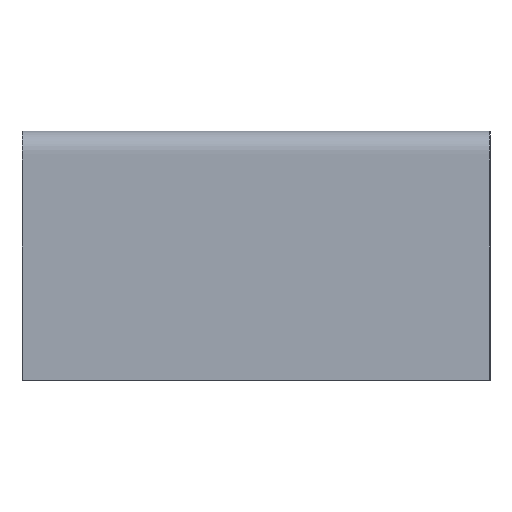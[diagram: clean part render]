
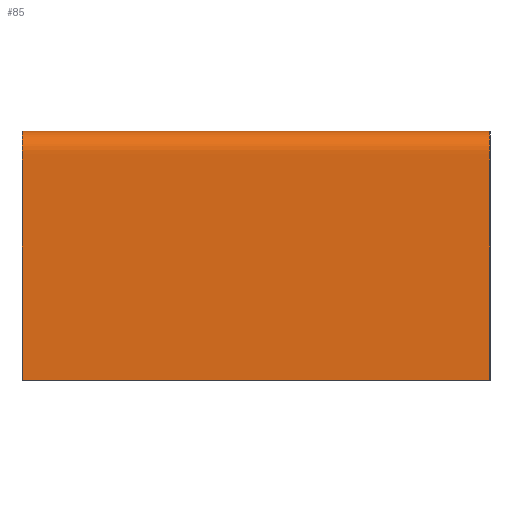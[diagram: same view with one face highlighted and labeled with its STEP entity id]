
A CAD part, left-side view. The second image highlights one B-rep face of the part: STEP entity #85.
In plain terms, the highlighted free-form (B-spline) face has degree [1, 2] with [2, 7] control points.
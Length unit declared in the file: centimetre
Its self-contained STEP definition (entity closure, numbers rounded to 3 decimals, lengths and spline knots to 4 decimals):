
#85=ADVANCED_FACE($,(#226),#1452,.T.);
#226=FACE_OUTER_BOUND($,#371,.T.);
#371=EDGE_LOOP($,(#588,#589,#590,#591));
#588=ORIENTED_EDGE($,*,*,#1040,.T.);
#589=ORIENTED_EDGE($,*,*,#1038,.T.);
#590=ORIENTED_EDGE($,*,*,#1044,.F.);
#591=ORIENTED_EDGE($,*,*,#1048,.F.);
#1038=EDGE_CURVE($,#1272,#1273,#1555,.T.);
#1040=EDGE_CURVE($,#1274,#1272,#1686,.T.);
#1044=EDGE_CURVE($,#1278,#1273,#1688,.T.);
#1048=EDGE_CURVE($,#1274,#1278,#1560,.T.);
#1272=VERTEX_POINT($,#2522);
#1273=VERTEX_POINT($,#2523);
#1274=VERTEX_POINT($,#2524);
#1278=VERTEX_POINT($,#2528);
#1452=(
BOUNDED_SURFACE()
B_SPLINE_SURFACE(1,2,((#2473,#2474,#2475,#2476,#2477,#2478,#2479),(#2480,
#2481,#2482,#2483,#2484,#2485,#2486)),.UNSPECIFIED.,.F.,.F.,.F.)
B_SPLINE_SURFACE_WITH_KNOTS((2,2),(3,2,2,3),(0.,60.),(-504.481,
-389.881,-387.5248,-358.2248),.UNSPECIFIED.)
GEOMETRIC_REPRESENTATION_ITEM()
RATIONAL_B_SPLINE_SURFACE(((1.,1.,1.,0.707,1.,1.,1.),(1.,1.,
1.,0.707,1.,1.,1.)))
REPRESENTATION_ITEM($)
SURFACE()
);
#1555=B_SPLINE_CURVE_WITH_KNOTS($,1,(#2413,#2414),.UNSPECIFIED.,.F.,.F.,
(2,2),(0.,60.),.UNSPECIFIED.);
#1560=B_SPLINE_CURVE_WITH_KNOTS($,1,(#2464,#2465),.UNSPECIFIED.,.F.,.F.,
(2,2),(0.,60.),.UNSPECIFIED.);
#1686=(
BOUNDED_CURVE()
B_SPLINE_CURVE(2,(#2420,#2421,#2422,#2423,#2424,#2425,#2426),.UNSPECIFIED.,
.F.,.F.)
B_SPLINE_CURVE_WITH_KNOTS((3,2,2,3),(358.2248,387.5248,389.881,
504.481),.UNSPECIFIED.)
CURVE()
GEOMETRIC_REPRESENTATION_ITEM()
RATIONAL_B_SPLINE_CURVE((1.,1.,1.,0.707,1.,1.,1.))
REPRESENTATION_ITEM($)
);
#1688=(
BOUNDED_CURVE()
B_SPLINE_CURVE(2,(#2442,#2443,#2444,#2445,#2446,#2447,#2448),.UNSPECIFIED.,
.F.,.F.)
B_SPLINE_CURVE_WITH_KNOTS((3,2,2,3),(358.2248,387.5248,389.881,
504.481),.UNSPECIFIED.)
CURVE()
GEOMETRIC_REPRESENTATION_ITEM()
RATIONAL_B_SPLINE_CURVE((1.,1.,1.,0.707,1.,1.,1.))
REPRESENTATION_ITEM($)
);
#2413=CARTESIAN_POINT($,(117.3,0.,32.));
#2414=CARTESIAN_POINT($,(117.3,60.,32.));
#2420=CARTESIAN_POINT($,(0.,0.,0.));
#2421=CARTESIAN_POINT($,(0.,0.,14.65));
#2422=CARTESIAN_POINT($,(0.,0.,29.3));
#2423=CARTESIAN_POINT($,(0.,0.,32.));
#2424=CARTESIAN_POINT($,(2.7,0.,32.));
#2425=CARTESIAN_POINT($,(60.,0.,32.));
#2426=CARTESIAN_POINT($,(117.3,0.,32.));
#2442=CARTESIAN_POINT($,(0.,60.,0.));
#2443=CARTESIAN_POINT($,(0.,60.,14.65));
#2444=CARTESIAN_POINT($,(0.,60.,29.3));
#2445=CARTESIAN_POINT($,(0.,60.,32.));
#2446=CARTESIAN_POINT($,(2.7,60.,32.));
#2447=CARTESIAN_POINT($,(60.,60.,32.));
#2448=CARTESIAN_POINT($,(117.3,60.,32.));
#2464=CARTESIAN_POINT($,(0.,0.,0.));
#2465=CARTESIAN_POINT($,(0.,60.,0.));
#2473=CARTESIAN_POINT($,(117.3,0.,32.));
#2474=CARTESIAN_POINT($,(60.,0.,32.));
#2475=CARTESIAN_POINT($,(2.7,0.,32.));
#2476=CARTESIAN_POINT($,(0.,0.,32.));
#2477=CARTESIAN_POINT($,(0.,0.,29.3));
#2478=CARTESIAN_POINT($,(0.,0.,14.65));
#2479=CARTESIAN_POINT($,(0.,0.,0.));
#2480=CARTESIAN_POINT($,(117.3,60.,32.));
#2481=CARTESIAN_POINT($,(60.,60.,32.));
#2482=CARTESIAN_POINT($,(2.7,60.,32.));
#2483=CARTESIAN_POINT($,(0.,60.,32.));
#2484=CARTESIAN_POINT($,(0.,60.,29.3));
#2485=CARTESIAN_POINT($,(0.,60.,14.65));
#2486=CARTESIAN_POINT($,(0.,60.,0.));
#2522=CARTESIAN_POINT($,(117.3,0.,32.));
#2523=CARTESIAN_POINT($,(117.3,60.,32.));
#2524=CARTESIAN_POINT($,(0.,0.,0.));
#2528=CARTESIAN_POINT($,(0.,60.,0.));
